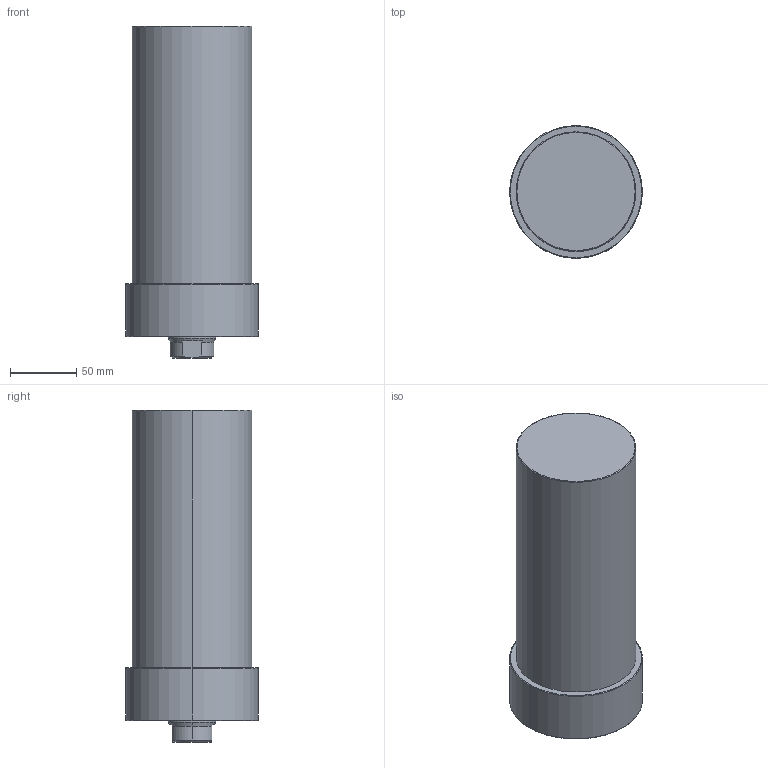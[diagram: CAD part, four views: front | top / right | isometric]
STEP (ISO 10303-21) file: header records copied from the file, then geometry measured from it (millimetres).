
FILE_DESCRIPTION (( 'STEP AP203' ), '1' );
FILE_NAME ('CLLU-090GA-140.STEP', '2020-01-13T05:37:17', ( '' ), ( '' ), 'SwSTEP 2.0', 'SolidWorks 2015', '' );
FILE_SCHEMA (( 'CONFIG_CONTROL_DESIGN' ));
Length unit declared in the file: millimetre
Products named in the file (1): CLLU-090GA-140
Bounding box: 100 x 100 x 250 mm (x, y, z)
Volume: 1542071.9 mm3; surface area: 90329.2 mm2
Topology: 1 solids, 1 shells, 64 faces, 143 edges, 80 vertices
Faces by surface type: cone 25, cylinder 23, plane 10, torus 6
Entity records: 1809 total; most frequent: DIRECTION 330, CARTESIAN_POINT 322, ORIENTED_EDGE 266, AXIS2_PLACEMENT_3D 140, EDGE_CURVE 133, VERTEX_POINT 80, CIRCLE 75, EDGE_LOOP 73
